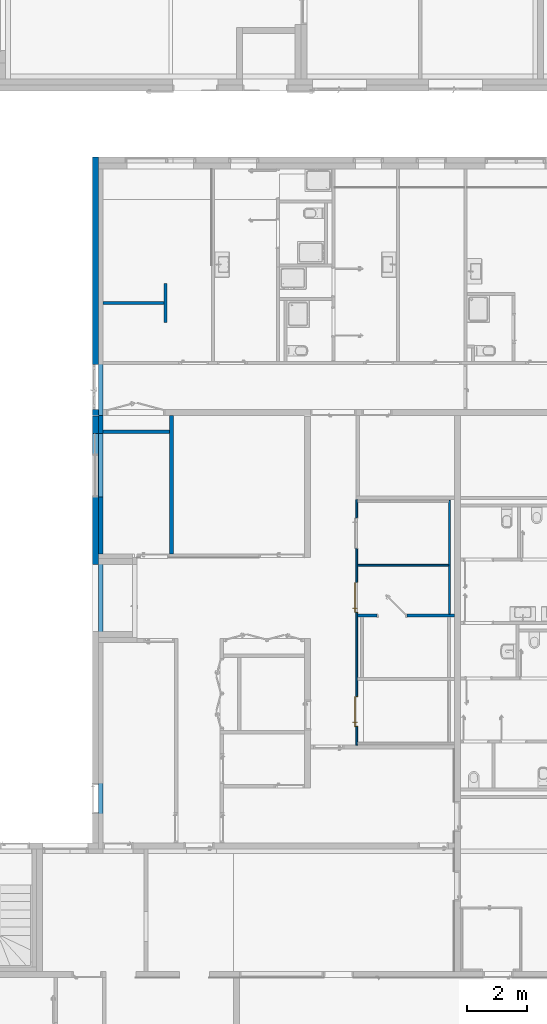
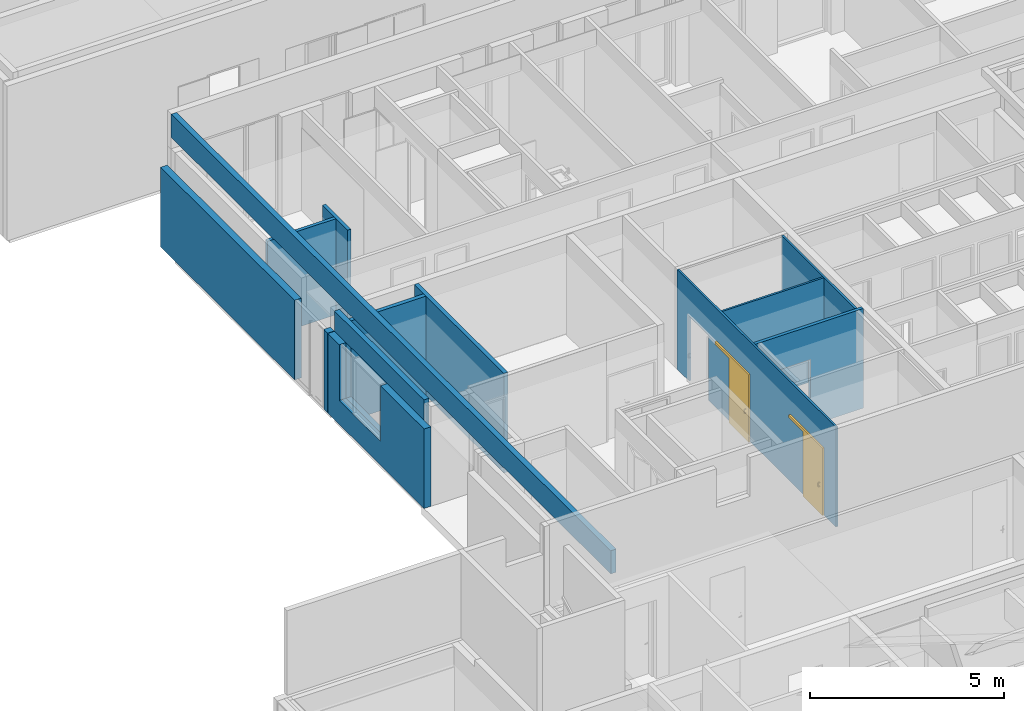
# One storey, part 100 of 240: 12 walls, 2 doors, 12 openings.
"""IFC2X3 building model written with IfcOpenShell, lengths in centimetres."""

from ifc_helpers import new_model, entity, si_unit, converted_unit, derived_unit, direction, frame, frame_2d, origin, place, context, subcontext, project, spatial, rectangle, extrude, faceted_brep, source, transform, mapped, material, material_list, layer, layer_set, layer_usage, type_object, type_shapes, element, fill, save


model = new_model("IFC2X3")

# Units and contexts
model_context = context("Model", 3, precision=0.001, world=origin(), true_north=direction((6.12303176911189e-17, 1.0)))
body_context = subcontext(model_context, "Body", "Model", "MODEL_VIEW")
ifc_project = project(units=[si_unit("LENGTHUNIT", "METRE", prefix="CENTI"), si_unit("AREAUNIT", "SQUARE_METRE"), si_unit("VOLUMEUNIT", "CUBIC_METRE"), converted_unit("PLANEANGLEUNIT", "DEGREE", entity("IfcRatioMeasure", 0.0174532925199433), si_unit("PLANEANGLEUNIT", "RADIAN"), dimensions=[0, 0, 0, 0, 0, 0, 0]), si_unit("MASSUNIT", "GRAM", prefix="KILO"), derived_unit("MASSDENSITYUNIT", [(si_unit("MASSUNIT", "GRAM", prefix="KILO"), 1), (si_unit("LENGTHUNIT", "METRE"), -3)]), si_unit("TIMEUNIT", "SECOND"), si_unit("FREQUENCYUNIT", "HERTZ"), si_unit("THERMODYNAMICTEMPERATUREUNIT", "DEGREE_CELSIUS"), derived_unit("THERMALTRANSMITTANCEUNIT", [(si_unit("MASSUNIT", "GRAM", prefix="KILO"), 1), (si_unit("THERMODYNAMICTEMPERATUREUNIT", "KELVIN"), -1), (si_unit("TIMEUNIT", "SECOND"), -3)]), derived_unit("VOLUMETRICFLOWRATEUNIT", [(si_unit("LENGTHUNIT", "METRE"), 3), (si_unit("TIMEUNIT", "SECOND"), -1)]), si_unit("ELECTRICCURRENTUNIT", "AMPERE"), si_unit("ELECTRICVOLTAGEUNIT", "VOLT"), si_unit("POWERUNIT", "WATT"), si_unit("FORCEUNIT", "NEWTON", prefix="KILO"), si_unit("ILLUMINANCEUNIT", "LUX"), si_unit("LUMINOUSFLUXUNIT", "LUMEN"), si_unit("LUMINOUSINTENSITYUNIT", "CANDELA"), derived_unit("USERDEFINED", [(si_unit("MASSUNIT", "GRAM", prefix="KILO"), -1), (si_unit("LENGTHUNIT", "METRE"), -2), (si_unit("TIMEUNIT", "SECOND"), 3), (si_unit("LUMINOUSFLUXUNIT", "LUMEN"), 1)]), derived_unit("LINEARVELOCITYUNIT", [(si_unit("LENGTHUNIT", "METRE"), 1), (si_unit("TIMEUNIT", "SECOND"), -1)]), si_unit("PRESSUREUNIT", "PASCAL"), derived_unit("USERDEFINED", [(si_unit("LENGTHUNIT", "METRE"), -2), (si_unit("MASSUNIT", "GRAM", prefix="KILO"), 1), (si_unit("TIMEUNIT", "SECOND"), -2)])], contexts=[model_context])

# Site, building, storey
site_placement = place(None, frame((-2781.94577612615, 7442.24238424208, 0.0)))
site = spatial("IfcSite", under=ifc_project, at=site_placement, Name="Default", CompositionType="ELEMENT")
building_placement = place(site_placement, origin())
building = spatial("IfcBuilding", under=site, at=building_placement, CompositionType="ELEMENT")
storey_placement = place(building_placement, origin())
storey = spatial("IfcBuildingStorey", under=building, at=storey_placement, Name="N00 - COO", CompositionType="ELEMENT", Elevation=0.0)

# Wall, openings
ifc_material_1 = material(Name="00 - Isolant")
ifc_layer_1 = layer(ifc_material_1, 14.0)
ifc_material_2 = material(Name="01 - Enduit/Plâtre")
ifc_layer_2 = layer(ifc_material_2, 1.3)
ifc_layer_set_1 = layer_set([ifc_layer_1, ifc_layer_2], Name="Mur de base:04 - Parement -  isolant 14 cm + BA13")
ifc_layer_usage_1 = layer_usage(ifc_layer_set_1, "AXIS2", "NEGATIVE", 7.65)
wall_type_1 = type_object("IfcWallType", Name="Mur de base:04 - Parement -  isolant 14 cm + BA13", PredefinedType="STANDARD", material=ifc_layer_set_1)
wall_1_placement = place(building_placement, frame((-10873.9630476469, -2391.07903364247, 0.0), z_axis=(0.0, 0.0, 1.0), x_axis=(0.0, 1.0, 0.0)))
wall_1 = element("IfcWallStandardCase", 1, at=wall_1_placement, inside=storey, type_object=wall_type_1, material=ifc_layer_usage_1, Name="Mur de base:04 - Parement -  isolant 14 cm + BA13", ObjectType="Mur de base:04 - Parement -  isolant 14 cm + BA13", context=body_context, shape_type="SweptSolid", body=[
    extrude(rectangle(XDim=461.000000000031, YDim=15.3000000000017, at=frame_2d((230.500000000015, 2.99760216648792e-13), x_axis=(-1.0, 0.0))), origin(), (0.0, 0.0, 1.0), 313.0),
])
opening_1_placement = place(wall_1_placement, origin())
element("IfcOpeningElement", 2, at=opening_1_placement, cuts=wall_1, Name="Mur de base:04 - Parement -  isolant 14 cm + BA13", ObjectType="Opening", context=body_context, shape_type="SweptSolid", body=[
    extrude(rectangle(XDim=175.0, YDim=68.0000000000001, at=frame_2d((0.0, 0.0), x_axis=(0.0, 1.0))), frame((367.0, -144.749999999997, 162.5), z_axis=(0.0, 1.0, 0.0), x_axis=(-1.0, 0.0, 0.0)), (0.0, 0.0, 1.0), 304.8),
])
opening_2_placement = place(wall_1_placement, origin())
element("IfcOpeningElement", 3, at=opening_2_placement, cuts=wall_1, Name="Mur de base:04 - Parement -  isolant 14 cm + BA13", ObjectType="Opening", context=body_context, shape_type="SweptSolid", body=[
    extrude(rectangle(XDim=175.0, YDim=144.0, at=frame_2d((0.0, 0.0), x_axis=(0.0, 1.0))), frame((261.0, -22.8899999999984, 162.5), z_axis=(0.0, 1.0, 0.0), x_axis=(-1.0, 0.0, 0.0)), (0.0, 0.0, 1.0), 45.78),
])

ifc_material_3 = material(Name="01 - Maçonnerie")
ifc_layer_3 = layer(ifc_material_3, 20.0)
ifc_layer_set_2 = layer_set([ifc_layer_3], Name="Mur de base:04 - Structure - béton - 20cm")
ifc_layer_usage_2 = layer_usage(ifc_layer_set_2, "AXIS2", "NEGATIVE", 10.0)
wall_type_2 = type_object("IfcWallType", Name="Mur de base:04 - Structure - béton - 20cm", PredefinedType="STANDARD", material=ifc_layer_set_2)
wall_2_placement = place(building_placement, frame((-10891.6130476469, -1070.0, 0.0), z_axis=(0.0, 0.0, 1.0), x_axis=(0.0, -1.0, 0.0)))
wall_2 = element("IfcWallStandardCase", 4, at=wall_2_placement, inside=storey, type_object=wall_type_2, material=ifc_layer_usage_2, Name="Mur de base:04 - Structure - béton - 20cm", ObjectType="Mur de base:04 - Structure - béton - 20cm", context=body_context, shape_type="SweptSolid", body=[
    extrude(rectangle(XDim=860.079033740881, YDim=19.9999999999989, at=frame_2d((430.039516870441, -8.88178419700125e-16), x_axis=(-1.0, 0.0))), origin(), (0.0, 0.0, 1.0), 250.0),
])
opening_3_placement = place(wall_2_placement, origin())
element("IfcOpeningElement", 5, at=opening_3_placement, cuts=wall_2, Name="Mur de base:04 - Structure - béton - 20cm", ObjectType="Opening", context=body_context, shape_type="SweptSolid", body=[
    extrude(rectangle(XDim=175.0, YDim=144.0, at=frame_2d((-2.8421709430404e-14, 0.0), x_axis=(1.0, 0.0))), frame((1060.07903374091, -25.2400000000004, 162.5), z_axis=(0.0, 1.0, 0.0), x_axis=(0.0, 0.0, 1.0)), (0.0, 0.0, 1.0), 50.4800000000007),
])
opening_4_placement = place(wall_2_placement, origin())
element("IfcOpeningElement", 6, at=opening_4_placement, cuts=wall_2, Name="Mur de base:04 - Structure - béton - 20cm", ObjectType="Opening", context=body_context, shape_type="SweptSolid", body=[
    extrude(rectangle(XDim=175.0, YDim=68.0000000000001, at=frame_2d((-2.1316282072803e-14, 0.0), x_axis=(1.0, 0.0))), frame((954.079033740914, -142.4, 162.5), z_axis=(0.0, 1.0, 0.0), x_axis=(0.0, 0.0, 1.0)), (0.0, 0.0, 1.0), 304.8),
])
opening_5_placement = place(wall_2_placement, frame((-1070.0, 10891.6130476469, 0.0), z_axis=(0.0, 0.0, 1.0), x_axis=(0.0, 1.0, 0.0)))
element("IfcOpeningElement", 7, at=opening_5_placement, cuts=wall_2, Name="Mur de base:04 - Structure - béton - 20cm", ObjectType="Opening", context=body_context, shape_type="SweptSolid", body=[
    extrude(rectangle(XDim=265.0, YDim=149.999999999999, at=frame_2d((0.0, -1.06581410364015e-13), x_axis=(1.0, 0.0))), frame((-10901.7130476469, -1835.03951677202, 117.5), z_axis=(1.0, 0.0, 0.0), x_axis=(0.0, 0.0, -1.0)), (0.0, 0.0, 1.0), 61.2999999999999),
])

ifc_layer_usage_3 = layer_usage(ifc_layer_set_2, "AXIS2", "NEGATIVE", 10.0)
wall_3_placement = place(building_placement, frame((-10891.6130476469, -1931.38903364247, 0.0), z_axis=(0.0, 0.0, 1.0), x_axis=(0.0, -1.0, 0.0)))
wall_3 = element("IfcWallStandardCase", 8, at=wall_3_placement, inside=storey, type_object=wall_type_2, material=ifc_layer_usage_3, Name="Mur de base:04 - Structure - béton - 20cm", ObjectType="Mur de base:04 - Structure - béton - 20cm", context=body_context, shape_type="SweptSolid", body=[
    extrude(rectangle(XDim=494.990000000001, YDim=19.9999999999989, at=frame_2d((247.495, 1.77635683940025e-14), x_axis=(-1.0, 0.0))), origin(), (0.0, 0.0, 1.0), 250.0),
])
opening_6_placement = place(wall_3_placement, origin())
element("IfcOpeningElement", 9, at=opening_6_placement, cuts=wall_3, Name="Mur de base:04 - Structure - béton - 20cm", ObjectType="Opening", context=body_context, shape_type="SweptSolid", body=[
    extrude(rectangle(XDim=175.0, YDim=144.0, at=frame_2d((-2.8421709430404e-14, 0.0), x_axis=(1.0, 0.0))), frame((198.690000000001, -25.2400000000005, 162.5), z_axis=(0.0, 1.0, 0.0), x_axis=(0.0, 0.0, 1.0)), (0.0, 0.0, 1.0), 50.4800000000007),
])
opening_7_placement = place(wall_3_placement, origin())
element("IfcOpeningElement", 10, at=opening_7_placement, cuts=wall_3, Name="Mur de base:04 - Structure - béton - 20cm", ObjectType="Opening", context=body_context, shape_type="SweptSolid", body=[
    extrude(rectangle(XDim=265.0, YDim=149.999999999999, at=frame_2d((0.0, -1.06581410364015e-13), x_axis=(1.0, 0.0))), frame((-96.3495168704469, -10.0999999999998, 117.5), z_axis=(0.0, 1.0, 0.0), x_axis=(0.0, 0.0, -1.0)), (0.0, 0.0, 1.0), 61.2999999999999),
])
opening_8_placement = place(wall_3_placement, frame((126.690000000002, 10.0, 75.0)))
element("IfcOpeningElement", 11, at=opening_8_placement, cuts=wall_3, Name="Ouvrant vitré:Ouvrant vitré 175mm:1", ObjectType="Opening", context=body_context, shape_type="SweptSolid", body=[
    extrude(rectangle(XDim=175.0, YDim=68.0000000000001, at=frame_2d((87.4999999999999, 34.0000000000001), x_axis=(1.0, 0.0))), frame((0.0, 0.0, 0.0), z_axis=(0.0, -1.0, 0.0), x_axis=(0.0, 0.0, 1.0)), (0.0, 0.0, 1.0), 20.0),
])

# Walls
ifc_layer_4 = layer(ifc_material_2, 1.3)
ifc_layer_5 = layer(ifc_material_1, 7.4)
ifc_layer_6 = layer(ifc_material_2, 1.3)
ifc_layer_set_3 = layer_set([ifc_layer_4, ifc_layer_5, ifc_layer_6], Name="Mur de base:06 - cloisons - Ba13 10cm")
ifc_layer_usage_4 = layer_usage(ifc_layer_set_3, "AXIS2", "NEGATIVE", 5.0)
wall_type_3 = type_object("IfcWallType", Name="Mur de base:06 - cloisons - Ba13 10cm", PredefinedType="STANDARD", material=ifc_layer_set_3)
wall_4_placement = place(building_placement, frame((-10866.3130476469, -1555.0, 0.0)))
element("IfcWallStandardCase", 12, at=wall_4_placement, inside=storey, type_object=wall_type_3, material=ifc_layer_usage_4, Name="Mur de base:06 - cloisons - Ba13 10cm", ObjectType="Mur de base:06 - cloisons - Ba13 10cm", context=body_context, shape_type="SweptSolid", body=[
    extrude(rectangle(XDim=202.700000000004, YDim=9.99999999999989, at=frame_2d((101.350000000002, 1.50990331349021e-14), x_axis=(-1.0, 0.0))), origin(), (0.0, 0.0, 1.0), 302.0),
])
ifc_layer_usage_5 = layer_usage(ifc_layer_set_3, "AXIS2", "NEGATIVE", 5.0)
wall_5_placement = place(building_placement, frame((-10658.6130476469, -1620.0, 0.0), z_axis=(0.0, 0.0, 1.0), x_axis=(0.0, 1.0, 0.0)))
element("IfcWallStandardCase", 13, at=wall_5_placement, inside=storey, type_object=wall_type_3, material=ifc_layer_usage_5, Name="Mur de base:06 - cloisons - Ba13 10cm", ObjectType="Mur de base:06 - cloisons - Ba13 10cm", context=body_context, shape_type="SweptSolid", body=[
    extrude(rectangle(XDim=130.0, YDim=10.0000000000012, at=frame_2d((65.0000000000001, 0.0), x_axis=(-1.0, 0.0))), origin(), (0.0, 0.0, 1.0), 302.0),
])
ifc_layer_7 = layer(ifc_material_1, 16.0)
ifc_layer_set_4 = layer_set([ifc_layer_7], Name="Mur de base:04 - retour isolation acrotère - ITE 16cm")
ifc_layer_usage_6 = layer_usage(ifc_layer_set_4, "AXIS2", "NEGATIVE", 8.0)
wall_type_4 = type_object("IfcWallType", Name="Mur de base:04 - retour isolation acrotère - ITE 16cm", PredefinedType="STANDARD", material=ifc_layer_set_4)
wall_6_placement = place(building_placement, frame((-10873.6130476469, -1090.0, 349.0), z_axis=(0.0, 0.0, 1.0), x_axis=(0.0, -1.0, 0.0)))
element("IfcWallStandardCase", 14, at=wall_6_placement, inside=storey, type_object=wall_type_4, material=ifc_layer_usage_6, Name="Mur de base:04 - retour isolation acrotère - ITE 16cm", ObjectType="Mur de base:04 - retour isolation acrotère - ITE 16cm", context=body_context, shape_type="SweptSolid", body=[
    extrude(rectangle(XDim=2262.52180661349, YDim=15.9999999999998, at=frame_2d((1131.26090330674, 5.77315972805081e-15), x_axis=(-1.0, 0.0))), origin(), (0.0, 0.0, 1.0), 73.0000000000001),
])
ifc_layer_8 = layer(ifc_material_2, 1.0)
ifc_material_4 = material(Name="Maçonnerie - Béton")
ifc_layer_9 = layer(ifc_material_4, 10.0)
ifc_layer_10 = layer(ifc_material_2, 1.0)
ifc_layer_set_5 = layer_set([ifc_layer_8, ifc_layer_9, ifc_layer_10], Name="Mur de base:06 - cloisons - agglos10 + faïence 12cm")
ifc_layer_usage_7 = layer_usage(ifc_layer_set_5, "AXIS2", "NEGATIVE", 6.0)
wall_type_5 = type_object("IfcWallType", Name="Mur de base:06 - cloisons - agglos10 + faïence 12cm", PredefinedType="STANDARD", material=ifc_layer_set_5)
wall_7_placement = place(building_placement, frame((-10638.3130476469, -1930.07903364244, 0.0), z_axis=(0.0, 0.0, 1.0), x_axis=(0.0, -1.0, 0.0)))
element("IfcWallStandardCase", 15, at=wall_7_placement, inside=storey, type_object=wall_type_5, material=ifc_layer_usage_7, Name="Mur de base:06 - cloisons - agglos10 + faïence 12cm", ObjectType="Mur de base:06 - cloisons - agglos10 + faïence 12cm", context=body_context, shape_type="SweptSolid", body=[
    extrude(rectangle(XDim=461.000000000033, YDim=12.0000000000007, at=frame_2d((230.500000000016, 0.0), x_axis=(-1.0, 0.0))), origin(), (0.0, 0.0, 1.0), 313.0),
])
ifc_layer_usage_8 = layer_usage(ifc_layer_set_5, "AXIS2", "NEGATIVE", 6.0)
wall_8_placement = place(building_placement, frame((-10866.3130476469, -1984.07903364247, 0.0)))
element("IfcWallStandardCase", 16, at=wall_8_placement, inside=storey, type_object=wall_type_5, material=ifc_layer_usage_8, Name="Mur de base:06 - cloisons - agglos10 + faïence 12cm", ObjectType="Mur de base:06 - cloisons - agglos10 + faïence 12cm", context=body_context, shape_type="SweptSolid", body=[
    extrude(rectangle(XDim=222.000000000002, YDim=11.9999999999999, at=frame_2d((111.000000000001, 9.76996261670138e-14), x_axis=(-1.0, 0.0))), origin(), (0.0, 0.0, 1.0), 313.0),
])

# Wall, openings, doors
ifc_material_5 = material(Name="Plastique, blanc opaque")
ifc_layer_11 = layer(ifc_material_5, 0.2)
ifc_material_6 = material(Name="00 - Isolant cloison Frigo")
ifc_layer_12 = layer(ifc_material_6, 5.6)
ifc_layer_13 = layer(ifc_material_5, 0.2)
ifc_layer_set_6 = layer_set([ifc_layer_11, ifc_layer_12, ifc_layer_13], Name="Mur de base:06 - cloisons - cuisine 6cm")
ifc_layer_usage_9 = layer_usage(ifc_layer_set_6, "AXIS2", "NEGATIVE", 3.0)
wall_type_6 = type_object("IfcWallType", Name="Mur de base:06 - cloisons - cuisine 6cm", PredefinedType="STANDARD", material=ifc_layer_set_6)
wall_9_placement = place(building_placement, frame((-10021.8417569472, -2210.35320515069, 0.0), z_axis=(0.0, 0.0, 1.0), x_axis=(0.0, -1.0, 0.0)))
wall_9 = element("IfcWallStandardCase", 17, at=wall_9_placement, inside=storey, type_object=wall_type_6, material=ifc_layer_usage_9, Name="Mur de base:06 - cloisons - cuisine 6cm", ObjectType="Mur de base:06 - cloisons - cuisine 6cm", context=body_context, shape_type="SweptSolid", body=[
    extrude(rectangle(XDim=817.168601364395, YDim=5.99999999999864, at=frame_2d((408.584300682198, -3.75699471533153e-13), x_axis=(-1.0, 0.0))), origin(), (0.0, 0.0, 1.0), 313.0),
])
opening_9_placement = place(wall_9_placement, frame((61.5219892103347, -3.0, 0.0)))
element("IfcOpeningElement", 18, at=opening_9_placement, cuts=wall_9, Name="Coulissante - Apparente:PM 0.80m x 2.04m 2:1", ObjectType="Opening", context=body_context, shape_type="SweptSolid", body=[
    extrude(rectangle(XDim=203.999999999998, YDim=99.9999999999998, at=frame_2d((101.999999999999, 49.9999999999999), x_axis=(1.0, 0.0))), frame((0.0, 0.0, 0.0), z_axis=(0.0, 1.0, 0.0), x_axis=(0.0, 0.0, 1.0)), (0.0, 0.0, 1.0), 6.0),
])
opening_10_placement = place(wall_9_placement, frame((274.713351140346, -3.0, 0.0)))
opening_10 = element("IfcOpeningElement", 19, at=opening_10_placement, cuts=wall_9, Name="Coulissante - Apparente:PM 0.80m x 2.04m 2:1", ObjectType="Opening", context=body_context, shape_type="SweptSolid", body=[
    extrude(rectangle(XDim=203.999999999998, YDim=99.9999999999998, at=frame_2d((101.999999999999, 49.9999999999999), x_axis=(1.0, 0.0))), frame((0.0, 0.0, 0.0), z_axis=(0.0, 1.0, 0.0), x_axis=(0.0, 0.0, 1.0)), (0.0, 0.0, 1.0), 6.0),
])
opening_11_placement = place(wall_9_placement, frame((654.460651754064, -3.0, 0.0)))
opening_11 = element("IfcOpeningElement", 20, at=opening_11_placement, cuts=wall_9, Name="Coulissante - Apparente:PM 0.80m x 2.04m 2:1", ObjectType="Opening", context=body_context, shape_type="SweptSolid", body=[
    extrude(rectangle(XDim=203.999999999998, YDim=99.9999999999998, at=frame_2d((101.999999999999, 49.9999999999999), x_axis=(1.0, 0.0))), frame((0.0, 0.0, 0.0), z_axis=(0.0, 1.0, 0.0), x_axis=(0.0, 0.0, 1.0)), (0.0, 0.0, 1.0), 6.0),
])
ifc_material_7 = material(Name="Bois - Panneau de porte")
ifc_material_8 = material(Name="Bois - Cadre de porte")
ifc_material_list_1 = material_list([ifc_material_7, ifc_material_8])
ifc_material_list_2 = material_list([ifc_material_7, ifc_material_8])
door_style = type_object("IfcDoorStyle", Name="PM 0.80m x 2.04m 2", ConstructionType="NOTDEFINED", OperationType="NOTDEFINED", ParameterTakesPrecedence=False, Sizeable=False, material=ifc_material_list_2)
shared_shape = source(origin(), body_context, "Body", "Brep", [
    faceted_brep([(87.0, -0.499999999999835, 94.874401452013), (87.4639220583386, -0.499999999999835, 94.931660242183), (87.8999999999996, -0.499999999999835, 95.1000000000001), (87.8999999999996, -0.499999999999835, 96.9), (87.4639220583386, -0.499999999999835, 97.068339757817), (87.0, -0.499999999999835, 97.1255985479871), (86.5360779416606, -0.499999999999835, 97.068339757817), (86.0999999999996, -0.499999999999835, 96.9), (86.0999999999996, -0.499999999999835, 95.1000000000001), (86.5360779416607, -0.499999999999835, 94.931660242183), (87.4639220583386, -0.499999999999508, 82.9316602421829), (87.8999999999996, -0.499999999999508, 83.1), (87.8999999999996, -0.499999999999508, 84.8999999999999), (87.4639220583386, -0.499999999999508, 85.0683397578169), (87.0, -0.499999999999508, 85.125598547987), (86.5360779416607, -0.499999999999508, 85.0683397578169), (86.0999999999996, -0.499999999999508, 84.8999999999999), (86.0999999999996, -0.499999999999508, 83.1), (86.5360779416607, -0.499999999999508, 82.9316602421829), (87.0, -0.499999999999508, 82.8744014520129), (86.0999999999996, 2.62720779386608, 84.8999999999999), (86.0999999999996, 3.60000000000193, 85.8727922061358), (86.0999999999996, 3.60000000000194, 94.1272077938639), (86.0999999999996, 2.6272077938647, 95.1000000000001), (86.0999999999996, 3.37279220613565, 96.9), (86.0999999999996, 5.40000000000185, 94.8727922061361), (86.0999999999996, 5.40000000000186, 85.1272077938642), (86.0999999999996, 3.37279220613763, 83.1), (86.5360779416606, 3.44252081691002, 97.068339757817), (87.0, 3.46623818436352, 97.1255985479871), (87.4639220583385, 3.44252081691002, 97.0683397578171), (87.8999999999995, 3.37279220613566, 96.9), (87.8999999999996, 2.62720779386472, 95.1000000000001), (87.8999999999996, 3.60000000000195, 94.1272077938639), (87.8999999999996, 3.60000000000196, 85.8727922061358), (87.8999999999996, 2.62720779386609, 84.8999999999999), (87.8999999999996, 3.37279220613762, 83.1), (87.8999999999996, 5.40000000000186, 85.1272077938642), (87.8999999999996, 5.40000000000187, 94.8727922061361), (87.4639220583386, 2.55747918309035, 94.9316602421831), (87.0, 2.53376181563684, 94.874401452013), (86.5360779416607, 2.55747918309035, 94.931660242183), (86.5360779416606, 5.56833975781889, 94.9425208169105), (87.0, 5.62559854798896, 94.9662381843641), (87.4639220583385, 5.56833975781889, 94.9425208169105), (87.4639220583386, 3.43166024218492, 94.0574791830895), (87.0, 3.37440145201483, 94.0337618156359), (86.5360779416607, 3.4316602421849, 94.0574791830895), (86.5360779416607, 5.56833975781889, 85.0574791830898), (87.0, 5.62559854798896, 85.0337618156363), (87.4639220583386, 5.56833975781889, 85.0574791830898), (87.4639220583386, 3.43166024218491, 85.9425208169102), (87.0, 3.37440145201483, 85.9662381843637), (86.5360779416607, 3.43166024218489, 85.9425208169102), (86.5360779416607, 3.44252081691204, 82.9316602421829), (87.0, 3.46623818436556, 82.8744014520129), (87.4639220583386, 3.44252081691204, 82.9316602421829), (87.4639220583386, 2.55747918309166, 85.0683397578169), (87.0, 2.53376181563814, 85.125598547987), (86.5360779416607, 2.55747918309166, 85.068339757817)], [[[0, 1, 2, 3, 4, 5, 6, 7, 8, 9]], [[10, 11, 12, 13, 14, 15, 16, 17, 18, 19]], [[16, 20, 21, 22, 23, 8, 7, 24, 25, 26, 27, 17]], [[6, 28, 24, 7]], [[5, 29, 28, 6]], [[5, 4, 30, 29]], [[3, 31, 30, 4]], [[2, 32, 33, 34, 35, 12, 11, 36, 37, 38, 31, 3]], [[2, 1, 39, 32]], [[40, 39, 1, 0]], [[8, 23, 41, 9]], [[40, 0, 9, 41]], [[24, 28, 42, 25]], [[29, 43, 42, 28]], [[30, 44, 43, 29]], [[30, 31, 38, 44]], [[32, 39, 45, 33]], [[46, 45, 39, 40]], [[41, 23, 22, 47]], [[47, 46, 40, 41]], [[42, 48, 26, 25]], [[43, 49, 48, 42]], [[44, 50, 49, 43]], [[44, 38, 37, 50]], [[45, 51, 34, 33]], [[51, 45, 46, 52]], [[22, 21, 53, 47]], [[52, 46, 47, 53]], [[26, 48, 54, 27]], [[49, 55, 54, 48]], [[50, 56, 55, 49]], [[50, 37, 36, 56]], [[34, 51, 57, 35]], [[58, 57, 51, 52]], [[53, 21, 20, 59]], [[59, 58, 52, 53]], [[27, 54, 18, 17]], [[19, 18, 54, 55]], [[36, 11, 10, 56]], [[19, 55, 56, 10]], [[57, 13, 12, 35]], [[13, 57, 58, 14]], [[59, 20, 16, 15]], [[15, 14, 58, 59]]]),
    faceted_brep([(87.4639220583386, -4.49999999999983, 97.068339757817), (87.8999999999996, -4.49999999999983, 96.9), (87.8999999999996, -4.49999999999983, 95.1000000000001), (87.4639220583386, -4.49999999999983, 94.931660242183), (87.0, -4.49999999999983, 94.874401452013), (86.5360779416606, -4.49999999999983, 94.931660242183), (86.0999999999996, -4.49999999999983, 95.1000000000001), (86.0999999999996, -4.49999999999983, 96.9), (86.5360779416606, -4.49999999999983, 97.068339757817), (87.0, -4.49999999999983, 97.1255985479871), (87.4639220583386, -4.49999999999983, 85.0683397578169), (87.8999999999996, -4.49999999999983, 84.8999999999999), (87.8999999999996, -4.49999999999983, 83.1), (87.4639220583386, -4.49999999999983, 82.9316602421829), (87.0, -4.49999999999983, 82.8744014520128), (86.5360779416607, -4.49999999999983, 82.9316602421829), (86.0999999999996, -4.49999999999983, 83.1), (86.0999999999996, -4.49999999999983, 84.8999999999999), (86.5360779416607, -4.49999999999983, 85.0683397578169), (87.0, -4.49999999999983, 85.125598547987), (87.4639220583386, -8.44252081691, 97.068339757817), (87.8999999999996, -8.37279220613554, 96.9), (87.0, -8.46623818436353, 97.1255985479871), (86.5360779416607, -8.44252081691, 97.0683397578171), (86.0999999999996, -8.37279220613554, 96.9), (86.0999999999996, -7.6272077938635, 95.1000000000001), (86.0999999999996, -8.59999999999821, 94.1272077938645), (86.0999999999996, -8.59999999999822, 85.8727922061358), (86.0999999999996, -7.62720779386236, 84.8999999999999), (86.0999999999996, -8.37279220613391, 83.1), (86.0999999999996, -10.3999999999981, 85.1272077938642), (86.0999999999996, -10.3999999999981, 94.8727922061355), (86.5360779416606, -7.55747918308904, 94.931660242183), (87.0, -7.53376181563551, 94.874401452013), (87.8999999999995, -7.6272077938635, 95.1000000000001), (87.4639220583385, -7.55747918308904, 94.931660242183), (87.8999999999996, -7.62720779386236, 84.8999999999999), (87.8999999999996, -8.59999999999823, 85.8727922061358), (87.8999999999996, -8.59999999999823, 94.1272077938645), (87.8999999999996, -10.3999999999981, 94.8727922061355), (87.8999999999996, -10.3999999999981, 85.1272077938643), (87.8999999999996, -8.3727922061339, 83.1), (87.4639220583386, -10.5683397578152, 94.9425208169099), (87.0, -10.6255985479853, 94.9662381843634), (86.5360779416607, -10.5683397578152, 94.9425208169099), (86.5360779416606, -8.43166024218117, 94.0574791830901), (87.0, -8.3744014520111, 94.0337618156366), (87.4639220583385, -8.43166024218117, 94.0574791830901), (87.4639220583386, -10.5683397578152, 85.0574791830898), (87.0, -10.6255985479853, 85.0337618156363), (86.5360779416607, -10.5683397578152, 85.0574791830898), (86.5360779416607, -8.43166024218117, 85.9425208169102), (87.0, -8.3744014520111, 85.9662381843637), (87.4639220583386, -8.43166024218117, 85.9425208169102), (87.4639220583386, -8.44252081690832, 82.9316602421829), (87.0, -8.46623818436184, 82.8744014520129), (86.5360779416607, -8.44252081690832, 82.9316602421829), (86.5360779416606, -7.55747918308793, 85.0683397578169), (87.0, -7.53376181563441, 85.125598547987), (87.4639220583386, -7.55747918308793, 85.0683397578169)], [[[0, 1, 2, 3, 4, 5, 6, 7, 8, 9]], [[10, 11, 12, 13, 14, 15, 16, 17, 18, 19]], [[0, 20, 21, 1]], [[9, 22, 20, 0]], [[9, 8, 23, 22]], [[7, 24, 23, 8]], [[6, 25, 26, 27, 28, 17, 16, 29, 30, 31, 24, 7]], [[6, 5, 32, 25]], [[33, 32, 5, 4]], [[2, 34, 35, 3]], [[33, 4, 3, 35]], [[11, 36, 37, 38, 34, 2, 1, 21, 39, 40, 41, 12]], [[20, 42, 39, 21]], [[22, 43, 42, 20]], [[23, 44, 43, 22]], [[23, 24, 31, 44]], [[25, 32, 45, 26]], [[46, 45, 32, 33]], [[35, 34, 38, 47]], [[47, 46, 33, 35]], [[42, 48, 40, 39]], [[43, 49, 48, 42]], [[44, 50, 49, 43]], [[44, 31, 30, 50]], [[45, 51, 27, 26]], [[51, 45, 46, 52]], [[38, 37, 53, 47]], [[52, 46, 47, 53]], [[48, 54, 41, 40]], [[49, 55, 54, 48]], [[50, 56, 55, 49]], [[50, 30, 29, 56]], [[27, 51, 57, 28]], [[58, 57, 51, 52]], [[53, 37, 36, 59]], [[59, 58, 52, 53]], [[41, 54, 13, 12]], [[14, 13, 54, 55]], [[29, 16, 15, 56]], [[14, 55, 56, 15]], [[57, 18, 17, 28]], [[18, 57, 58, 19]], [[59, 36, 11, 10]], [[10, 19, 58, 59]]]),
    faceted_brep([(0.0, 6.0, 0.0), (-2.0, 6.0, 0.0), (-2.0, 6.80000000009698, 0.0), (1.49999999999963, 6.80000000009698, 0.0), (1.49999999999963, 0.0, 0.0), (0.0, 0.0, 0.0), (0.0, 6.0, 204.0), (100.0, 6.0, 204.0), (100.0, 6.0, 0.0), (102.0, 6.0, 0.0), (102.0, 6.0, 206.0), (-2.0, 6.0, 206.0), (-2.0, 6.80000000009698, 206.0), (102.0, 6.80000000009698, 206.0), (102.0, 6.80000000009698, 0.0), (98.5000000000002, 6.80000000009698, 0.0), (98.5000000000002, 6.80000000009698, 202.499999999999), (1.49999999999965, 6.80000000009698, 202.499999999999), (1.49999999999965, 0.0, 202.499999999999), (98.5000000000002, 0.0, 202.499999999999), (98.5000000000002, 0.0, 0.0), (100.0, 0.0, 0.0), (100.0, 0.0, 204.0), (0.0, 0.0, 204.0)], [[[0, 1, 2, 3, 4, 5]], [[1, 0, 6, 7, 8, 9, 10, 11]], [[2, 1, 11, 12]], [[3, 2, 12, 13, 14, 15, 16, 17]], [[4, 3, 17, 18]], [[5, 4, 18, 19, 20, 21, 22, 23]], [[0, 5, 23, 6]], [[12, 11, 10, 13]], [[18, 17, 16, 19]], [[6, 23, 22, 7]], [[8, 21, 20, 15, 14, 9]], [[13, 10, 9, 14]], [[19, 16, 15, 20]], [[7, 22, 21, 8]]]),
    faceted_brep([(100.0, -4.49999999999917, 204.0), (100.0, -0.49999999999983, 204.0), (0.0, -0.49999999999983, 204.0), (0.0, -4.49999999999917, 204.0), (100.0, -4.49999999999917, 0.0), (0.0, -4.49999999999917, 0.0), (0.0, -0.49999999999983, 0.0), (100.0, -0.49999999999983, 0.0)], [[[0, 1, 2, 3]], [[4, 5, 6, 7]], [[1, 0, 4, 7]], [[2, 1, 7, 6]], [[3, 2, 6, 5]], [[0, 3, 5, 4]]]),
    faceted_brep([(101.5, -5.0, 212.0), (-71.5000000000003, -5.0, 212.0), (-71.5000000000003, -5.0, 204.0), (101.5, -5.0, 204.0), (101.5, 0.0, 212.0), (101.5, 0.0, 204.0), (-71.5000000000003, 0.0, 204.0), (-71.5000000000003, 0.0, 212.0)], [[[0, 1, 2, 3]], [[4, 5, 6, 7]], [[1, 0, 4, 7]], [[2, 1, 7, 6]], [[3, 2, 6, 5]], [[0, 3, 5, 4]]]),
    faceted_brep([(101.5, -5.0, 204.0), (101.5, 0.0, 204.0), (100.0, 0.0, 204.0), (100.0, -5.0, 204.0), (101.5, -5.0, 0.0), (100.0, -5.0, 0.0), (100.0, 0.0, 0.0), (101.5, 0.0, 0.0)], [[[0, 1, 2, 3]], [[4, 5, 6, 7]], [[1, 0, 4, 7]], [[2, 1, 7, 6]], [[3, 2, 6, 5]], [[0, 3, 5, 4]]]),
])
type_shapes(door_style, [shared_shape])
door_1_placement = place(opening_10_placement, origin())
door_1 = element("IfcDoor", 21, at=door_1_placement, inside=storey, type_object=door_style, material=ifc_material_list_1, Name="Coulissante - Apparente:PM 0.80m x 2.04m 2", ObjectType="Coulissante - Apparente:PM 0.80m x 2.04m 2", OverallHeight=203.999999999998, OverallWidth=99.9999999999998, context=body_context, shape_type="MappedRepresentation", body=[
    mapped(shared_shape, transform((0.0, 0.0, 0.0), scale=1.0)),
])
fill(opening_10, door_1)
ifc_material_list_3 = material_list([ifc_material_7, ifc_material_8])
door_2_placement = place(opening_11_placement, origin())
door_2 = element("IfcDoor", 22, at=door_2_placement, inside=storey, type_object=door_style, material=ifc_material_list_3, Name="Coulissante - Apparente:PM 0.80m x 2.04m 2", ObjectType="Coulissante - Apparente:PM 0.80m x 2.04m 2", OverallHeight=203.999999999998, OverallWidth=99.9999999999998, context=body_context, shape_type="MappedRepresentation", body=[
    mapped(shared_shape, transform((0.0, 0.0, 0.0), scale=1.0)),
])
fill(opening_11, door_2)

# Walls
ifc_layer_usage_10 = layer_usage(ifc_layer_set_6, "AXIS2", "NEGATIVE", 3.0)
wall_10_placement = place(building_placement, frame((-9715.84156047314, -2428.28652537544, 0.0), z_axis=(0.0, 0.0, 1.0), x_axis=(-1.0, 0.0, 0.0)))
element("IfcWallStandardCase", 23, at=wall_10_placement, inside=storey, type_object=wall_type_6, material=ifc_layer_usage_10, Name="Mur de base:06 - cloisons - cuisine 6cm", ObjectType="Mur de base:06 - cloisons - cuisine 6cm", context=body_context, shape_type="SweptSolid", body=[
    extrude(rectangle(XDim=303.00019647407, YDim=6.00000000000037, at=frame_2d((151.500098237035, -2.04281036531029e-14), x_axis=(-1.0, 0.0))), origin(), (0.0, 0.0, 1.0), 313.0),
])
ifc_layer_usage_11 = layer_usage(ifc_layer_set_6, "AXIS2", "NEGATIVE", 3.0)
wall_11_placement = place(building_placement, frame((-9712.84156047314, -2591.28653613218, 0.0), z_axis=(0.0, 0.0, 1.0), x_axis=(0.0, 1.0, 0.0)))
element("IfcWallStandardCase", 24, at=wall_11_placement, inside=storey, type_object=wall_type_6, material=ifc_layer_usage_11, Name="Mur de base:06 - cloisons - cuisine 6cm", ObjectType="Mur de base:06 - cloisons - cuisine 6cm", context=body_context, shape_type="SweptSolid", body=[
    extrude(rectangle(XDim=378.93332995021, YDim=5.99999999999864, at=frame_2d((189.466664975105, 0.0), x_axis=(-1.0, 0.0))), origin(), (0.0, 0.0, 1.0), 313.00000000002),
])

# Wall, opening
ifc_layer_14 = layer(ifc_material_5, 0.2)
ifc_layer_15 = layer(ifc_material_6, 9.6)
ifc_layer_16 = layer(ifc_material_5, 0.2)
ifc_layer_set_7 = layer_set([ifc_layer_14, ifc_layer_15, ifc_layer_16], Name="Mur de base:06 - cloisons - cuisine 10cm")
ifc_layer_usage_12 = layer_usage(ifc_layer_set_7, "AXIS2", "NEGATIVE", 5.0)
wall_type_7 = type_object("IfcWallType", Name="Mur de base:06 - cloisons - cuisine 10cm", PredefinedType="STANDARD", material=ifc_layer_set_7)
wall_12_placement = place(storey_placement, frame((-10018.8417569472, -2596.28653613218, 0.0)))
wall_12 = element("IfcWallStandardCase", 25, at=wall_12_placement, inside=storey, type_object=wall_type_7, material=ifc_layer_usage_12, Name="Mur de base:06 - cloisons - cuisine 10cm", ObjectType="Mur de base:06 - cloisons - cuisine 10cm", context=body_context, shape_type="SweptSolid", body=[
    extrude(rectangle(XDim=321.841759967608, YDim=10.0000000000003, at=frame_2d((160.920879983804, -1.33226762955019e-15), x_axis=(-1.0, 0.0))), origin(), (0.0, 0.0, 1.0), 313.000000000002),
])
opening_12_placement = place(wall_12_placement, frame((64.3925730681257, -5.0, 0.0)))
element("IfcOpeningElement", 26, at=opening_12_placement, cuts=wall_12, Name="Int. Simple:PP ISOTHERME  (0.93m x 2.04m):1", ObjectType="Opening", context=body_context, shape_type="SweptSolid", body=[
    extrude(rectangle(XDim=207.5, YDim=99.9999999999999, at=frame_2d((103.75, 50.0), x_axis=(1.0, 0.0))), frame((0.0, 0.0, 0.0), z_axis=(0.0, 1.0, 0.0), x_axis=(0.0, 0.0, 1.0)), (0.0, 0.0, 1.0), 10.0),
])

save(model, "model.ifc")
